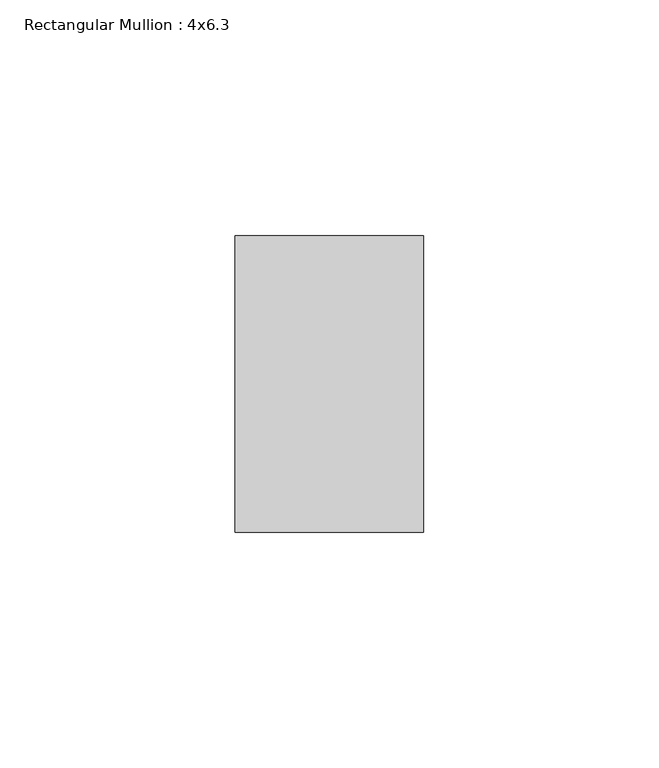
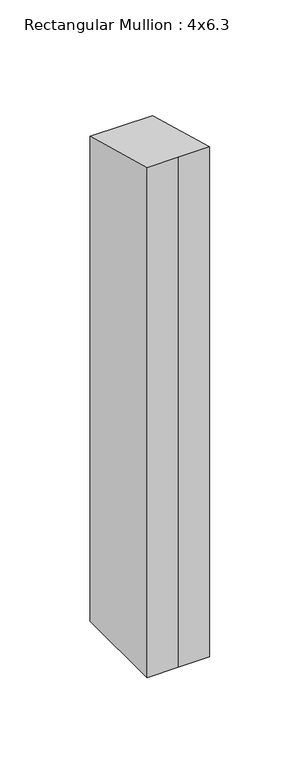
"""IFC4 building model written with IfcOpenShell, lengths in millimetres: member geometry, Rectangular Mullion : 4x6.3."""

from ifc_helpers import new_model, si_unit, origin, place, context, project, spatial, faceted_brep, source, transform, mapped, element, save


def rectangular_mullion_4x6_3_cdca2013(model_context):
    return source(origin(), model_context, "Body", "Brep", [
        faceted_brep([(-20.0, 20.0, -350.190814), (-20.0, 83.0, -350.190814), (20.0, 83.0, -350.190814), (20.0, 20.0, -350.190814), (0.0, 20.0, -350.190814), (0.0, 20.0, -5.4283368), (-20.0, 20.0, -5.4283368), (20.0, 20.0, -5.4283368), (20.0, 83.0, -22.5275978), (-20.0, 83.0, -22.5275978)], [[[0, 1, 2, 3, 4]], [[5, 6, 0, 4]], [[7, 5, 4, 3]], [[8, 7, 3, 2]], [[9, 8, 2, 1]], [[6, 9, 1, 0]], [[6, 5, 7, 8, 9]]]),
    ])


if __name__ == "__main__":
    model = new_model("IFC4")
    model_context = context("Model", 3, world=origin())
    ifc_project = project(units=[si_unit("LENGTHUNIT", "METRE", prefix="MILLI")], contexts=[model_context])
    site = spatial("IfcSite", under=ifc_project)
    building = spatial("IfcBuilding", under=site)
    placement = place(None, origin())
    rectangular_mullion_4x6_3_shape = rectangular_mullion_4x6_3_cdca2013(model_context)
    element("IfcMember", 1, ObjectType="Rectangular Mullion : 4x6.3", at=placement, inside=building, context=model_context, shape_type="MappedRepresentation", body=[
        mapped(rectangular_mullion_4x6_3_shape, transform((0.0, 0.0, 0.0), x_axis=(1.0, 0.0, 0.0), y_axis=(0.0, 1.0, 0.0), z_axis=(0.0, 0.0, 1.0))),
    ])
    save(model, "model.ifc")
